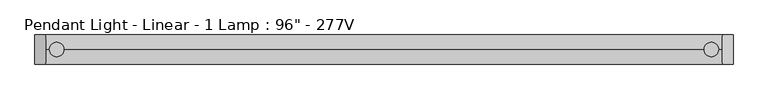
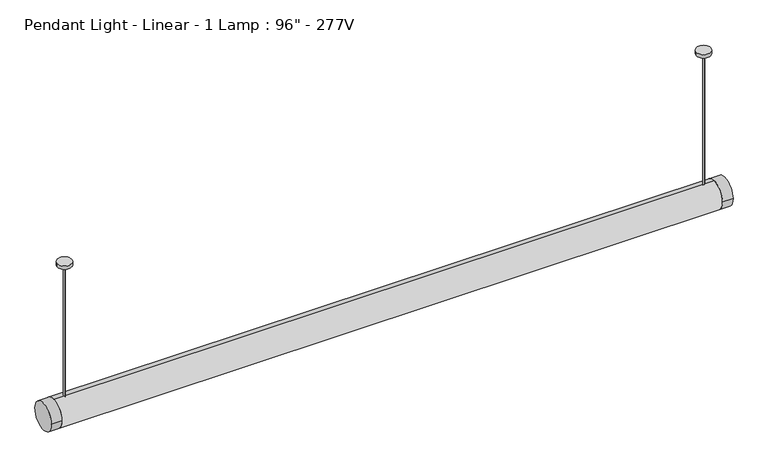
"""IFC4 building model written with IfcOpenShell, lengths in millimetres: light fixture geometry."""

from ifc_helpers import new_model, si_unit, point, frame, frame_2d, origin, place, context, project, spatial, polyline, circle_curve, trimmed, segment, composite_curve, outline, extrude, source, transform, mapped, element, save


def light_fixture_b55401bd(model_context):
    return source(origin(), model_context, "Body", "SweptSolid", [
        extrude(outline(polyline([(1181.3084676, 25.4), (1181.3084676, -25.4), (-1181.1, -25.4), (-1181.1, 25.4), (1181.3084676, 25.4)])), frame((0.0, 0.0, 1841.5), z_axis=(0.0, 0.0, 1.0), x_axis=(1.0, 0.0, 0.0)), (0.0, 0.0, 1.0), 12.7),
        extrude(outline(composite_curve([segment(trimmed(circle_curve(frame_2d((0.0, 1879.6)), 50.8), [point((-50.8, 1879.6))], [point((50.8, 1879.6))], False, "CARTESIAN"), True, "CONTINUOUS"), segment(trimmed(circle_curve(frame_2d((0.0, 1879.6)), 50.8), [point((50.8, 1879.6))], [point((-50.8, 1879.6))], False, "CARTESIAN"), True, "CONTINUOUS")], self_intersect=False)), frame((1181.3084676, 0.0, 0.0), z_axis=(1.0, 0.0, 0.0), x_axis=(0.0, 1.0, 0.0)), (0.0, 0.0, 1.0), 37.8915324),
        extrude(outline(composite_curve([segment(trimmed(circle_curve(frame_2d((0.0, 1879.6)), 50.81227), [point((50.81227, 1879.6))], [point((-50.81227, 1879.6))], False, "CARTESIAN"), True, "CONTINUOUS"), segment(trimmed(circle_curve(frame_2d((0.0, 1879.6)), 50.81227), [point((-50.81227, 1879.6))], [point((50.81227, 1879.6))], False, "CARTESIAN"), True, "CONTINUOUS")], self_intersect=False)), frame((-1219.2, 0.0, 0.0), z_axis=(1.0, 0.0, 0.0), x_axis=(0.0, 1.0, 0.0)), (0.0, 0.0, 1.0), 38.1),
        extrude(outline(composite_curve([segment(trimmed(circle_curve(frame_2d((0.0, 1879.6)), 50.8), [point((-25.4, 1835.6059095))], [point((0.0, 1930.4))], False, "CARTESIAN"), True, "CONTINUOUS"), segment(trimmed(circle_curve(frame_2d((0.0, 1879.6)), 50.8), [point((0.0, 1930.4))], [point((25.4, 1835.6059095))], False, "CARTESIAN"), True, "CONTINUOUS"), segment(polyline([(25.4, 1835.6059095), (25.4, 1866.9), (-25.4, 1866.9), (-25.4, 1835.6059095)]), True, "CONTINUOUS")], self_intersect=False)), frame((-1181.1, 0.0, 0.0), z_axis=(1.0, 0.0, 0.0), x_axis=(0.0, 1.0, 0.0)), (0.0, 0.0, 1.0), 2362.4084676),
        extrude(outline(composite_curve([segment(trimmed(circle_curve(frame_2d((-1143.0883785, 0.0)), 25.4), [point((-1168.4883785, 0.0))], [point((-1117.6883785, 0.0))], False, "CARTESIAN"), True, "CONTINUOUS"), segment(trimmed(circle_curve(frame_2d((-1143.0883785, 0.0)), 25.4), [point((-1117.6883785, 0.0))], [point((-1168.4883785, 0.0))], False, "CARTESIAN"), True, "CONTINUOUS")], self_intersect=False)), frame((0.0, 0.0, 2425.7), z_axis=(0.0, 0.0, 1.0), x_axis=(1.0, 0.0, 0.0)), (0.0, 0.0, 1.0), 12.7),
        extrude(outline(composite_curve([segment(trimmed(circle_curve(frame_2d((1143.0, 0.0)), 25.4), [point((1117.6, 0.0))], [point((1168.4, 0.0))], False, "CARTESIAN"), True, "CONTINUOUS"), segment(trimmed(circle_curve(frame_2d((1143.0, 0.0)), 25.4), [point((1168.4, 0.0))], [point((1117.6, 0.0))], False, "CARTESIAN"), True, "CONTINUOUS")], self_intersect=False)), frame((0.0, 0.0, 2425.7), z_axis=(0.0, 0.0, 1.0), x_axis=(1.0, 0.0, 0.0)), (0.0, 0.0, 1.0), 12.7),
        extrude(outline(composite_curve([segment(trimmed(circle_curve(frame_2d((-1143.0, 0.0)), 3.175), [point((-1143.0, 3.175))], [point((-1143.0, -3.175))], False, "CARTESIAN"), True, "CONTINUOUS"), segment(trimmed(circle_curve(frame_2d((-1143.0, 0.0)), 3.175), [point((-1143.0, -3.175))], [point((-1143.0, 3.175))], False, "CARTESIAN"), True, "CONTINUOUS")], self_intersect=False)), frame((0.0, 0.0, 1917.7), z_axis=(0.0, 0.0, 1.0), x_axis=(1.0, 0.0, 0.0)), (0.0, 0.0, 1.0), 508.0),
        extrude(outline(composite_curve([segment(trimmed(circle_curve(frame_2d((1143.0, 0.0)), 3.175), [point((1143.0, 3.175))], [point((1143.0, -3.175))], False, "CARTESIAN"), True, "CONTINUOUS"), segment(trimmed(circle_curve(frame_2d((1143.0, 0.0)), 3.175), [point((1143.0, -3.175))], [point((1143.0, 3.175))], False, "CARTESIAN"), True, "CONTINUOUS")], self_intersect=False)), frame((0.0, 0.0, 1917.7), z_axis=(0.0, 0.0, 1.0), x_axis=(1.0, 0.0, 0.0)), (0.0, 0.0, 1.0), 508.0),
    ])


if __name__ == "__main__":
    model = new_model("IFC4")
    model_context = context("Model", 3, world=origin())
    ifc_project = project(units=[si_unit("LENGTHUNIT", "METRE", prefix="MILLI")], contexts=[model_context])
    site = spatial("IfcSite", under=ifc_project)
    building = spatial("IfcBuilding", under=site)
    placement = place(None, origin())
    light_fixture_shape = light_fixture_b55401bd(model_context)
    element("IfcLightFixture", 1, ObjectType="Pendant Light - Linear - 1 Lamp : 96\" - 277V", at=placement, inside=building, context=model_context, shape_type="MappedRepresentation", body=[
        mapped(light_fixture_shape, transform((0.0, 0.0, 0.0), x_axis=(1.0, 0.0, 0.0), y_axis=(0.0, 1.0, 0.0), z_axis=(0.0, 0.0, 1.0))),
    ])
    save(model, "model.ifc")
